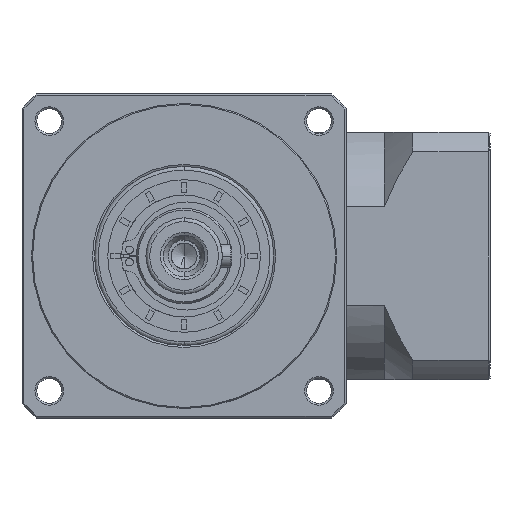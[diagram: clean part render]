
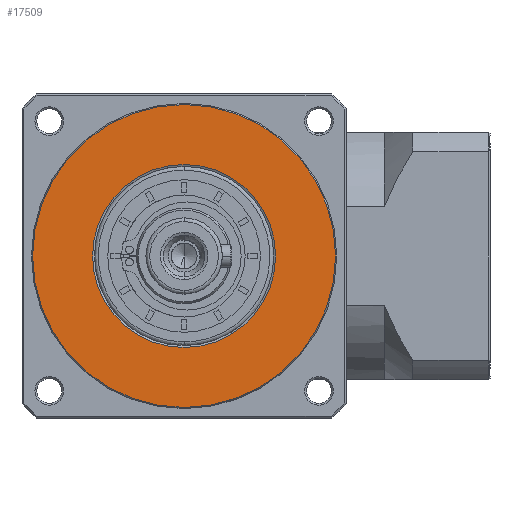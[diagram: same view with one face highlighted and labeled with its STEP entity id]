
A CAD part, left-side view. The second image highlights one B-rep face of the part: STEP entity #17509.
In plain terms, the highlighted planar face has unit normal (-1, 0, 0).
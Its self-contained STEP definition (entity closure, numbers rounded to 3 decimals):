
#1781 = VERTEX_POINT ( 'NONE', #68584 ) ;
#4002 = DIRECTION ( 'NONE',  ( 0., 0., -1. ) ) ;
#15057 = CARTESIAN_POINT ( 'NONE',  ( -126.611, -15.439, -117.334 ) ) ;
#15651 = DIRECTION ( 'NONE',  ( 1., 0., 0. ) ) ;
#16376 = VERTEX_POINT ( 'NONE', #150983 ) ;
#17509 = ADVANCED_FACE ( 'NONE', ( #145641, #72385 ), #56168, .T. ) ;
#21912 = EDGE_CURVE ( 'NONE', #16376, #127071, #101434, .T. ) ;
#28971 = DIRECTION ( 'NONE',  ( 0., 0., -1. ) ) ;
#29356 = VERTEX_POINT ( 'NONE', #132130 ) ;
#36159 = DIRECTION ( 'NONE',  ( 1., 0., 0. ) ) ;
#38108 = CARTESIAN_POINT ( 'NONE',  ( -126.611, 24.272, -117.334 ) ) ;
#38876 = AXIS2_PLACEMENT_3D ( 'NONE', #98316, #15651, #112099 ) ;
#50514 = DIRECTION ( 'NONE',  ( 1., 0., 0. ) ) ;
#56168 = PLANE ( 'NONE',  #79314 ) ;
#61346 = AXIS2_PLACEMENT_3D ( 'NONE', #118678, #36159, #132528 ) ;
#68584 = CARTESIAN_POINT ( 'NONE',  ( -126.611, -15.439, -141.334 ) ) ;
#72385 = FACE_BOUND ( 'NONE', #164421, .T. ) ;
#72891 = EDGE_CURVE ( 'NONE', #29356, #1781, #105283, .T. ) ;
#79314 = AXIS2_PLACEMENT_3D ( 'NONE', #15057, #111489, #28971 ) ;
#83133 = ORIENTED_EDGE ( 'NONE', *, *, #21912, .F. ) ;
#86563 = DIRECTION ( 'NONE',  ( 1., 0., 0. ) ) ;
#90289 = CIRCLE ( 'NONE', #38876, 24. ) ;
#98316 = CARTESIAN_POINT ( 'NONE',  ( -126.611, -15.439, -117.334 ) ) ;
#101434 = CIRCLE ( 'NONE', #156337, 39.711 ) ;
#105283 = CIRCLE ( 'NONE', #121465, 24. ) ;
#111489 = DIRECTION ( 'NONE',  ( -1., 0., 0. ) ) ;
#112099 = DIRECTION ( 'NONE',  ( 0., 0., -1. ) ) ;
#115030 = ORIENTED_EDGE ( 'NONE', *, *, #72891, .T. ) ;
#118678 = CARTESIAN_POINT ( 'NONE',  ( -126.611, -15.439, -117.334 ) ) ;
#121465 = AXIS2_PLACEMENT_3D ( 'NONE', #168958, #86563, #4002 ) ;
#121598 = EDGE_CURVE ( 'NONE', #1781, #29356, #90289, .T. ) ;
#127071 = VERTEX_POINT ( 'NONE', #38108 ) ;
#132097 = CIRCLE ( 'NONE', #61346, 39.711 ) ;
#132130 = CARTESIAN_POINT ( 'NONE',  ( -126.611, -15.439, -93.334 ) ) ;
#132528 = DIRECTION ( 'NONE',  ( 0., 1., 0. ) ) ;
#133020 = CARTESIAN_POINT ( 'NONE',  ( -126.611, -15.439, -117.334 ) ) ;
#135416 = EDGE_LOOP ( 'NONE', ( #160356, #83133 ) ) ;
#145641 = FACE_OUTER_BOUND ( 'NONE', #135416, .T. ) ;
#146816 = DIRECTION ( 'NONE',  ( 0., 1., 0. ) ) ;
#150983 = CARTESIAN_POINT ( 'NONE',  ( -126.611, -55.15, -117.334 ) ) ;
#151168 = EDGE_CURVE ( 'NONE', #127071, #16376, #132097, .T. ) ;
#156337 = AXIS2_PLACEMENT_3D ( 'NONE', #133020, #50514, #146816 ) ;
#160356 = ORIENTED_EDGE ( 'NONE', *, *, #151168, .F. ) ;
#164421 = EDGE_LOOP ( 'NONE', ( #176934, #115030 ) ) ;
#168958 = CARTESIAN_POINT ( 'NONE',  ( -126.611, -15.439, -117.334 ) ) ;
#176934 = ORIENTED_EDGE ( 'NONE', *, *, #121598, .T. ) ;
